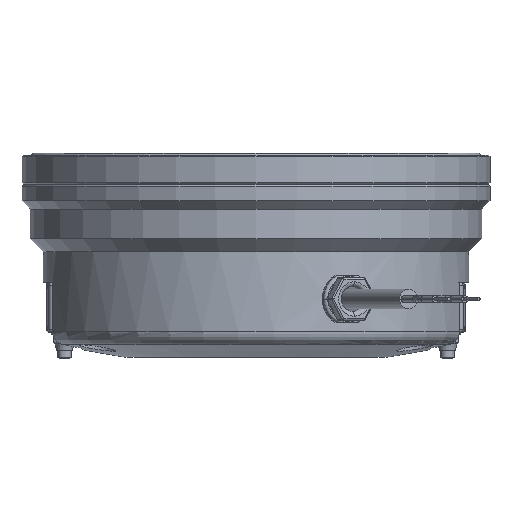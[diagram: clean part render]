
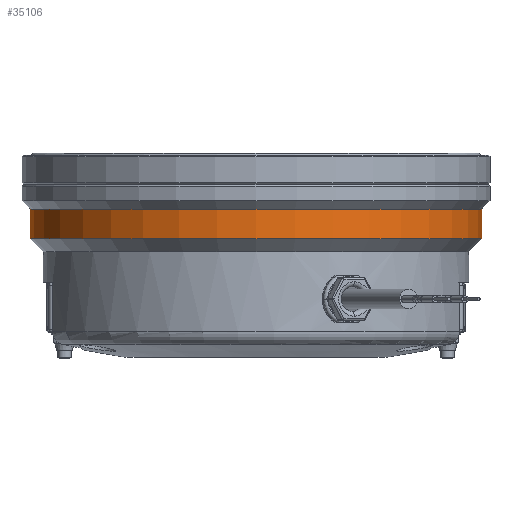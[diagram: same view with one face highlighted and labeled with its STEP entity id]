
A CAD part, front view. The second image highlights one B-rep face of the part: STEP entity #35106.
In plain terms, the highlighted cylindrical face has radius 69 mm (diameter 138 mm), a partial arc.
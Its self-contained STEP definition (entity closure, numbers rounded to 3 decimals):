
#701 = FACE_OUTER_BOUND ( 'NONE', #34939, .T. ) ;
#1768 = EDGE_CURVE ( 'NONE', #3904, #50552, #38948, .T. ) ;
#1823 = EDGE_CURVE ( 'NONE', #50552, #17945, #9224, .T. ) ;
#3002 = VECTOR ( 'NONE', #13852, 1000. ) ;
#3761 = DIRECTION ( 'NONE',  ( 1., 0., 0. ) ) ;
#3904 = VERTEX_POINT ( 'NONE', #37606 ) ;
#4333 = DIRECTION ( 'NONE',  ( 0., 0., 1. ) ) ;
#4391 = CARTESIAN_POINT ( 'NONE',  ( -69., 0., 4.927 ) ) ;
#4942 = CARTESIAN_POINT ( 'NONE',  ( 0., 0., -7.5 ) ) ;
#9224 = CIRCLE ( 'NONE', #39499, 69. ) ;
#9553 = CARTESIAN_POINT ( 'NONE',  ( 69., 0., -7.5 ) ) ;
#9854 = DIRECTION ( 'NONE',  ( 1., 0., 0. ) ) ;
#13852 = DIRECTION ( 'NONE',  ( 0., 0., 1. ) ) ;
#14873 = EDGE_CURVE ( 'NONE', #47808, #17945, #51016, .T. ) ;
#17744 = DIRECTION ( 'NONE',  ( 0., 0., 1. ) ) ;
#17792 = ORIENTED_EDGE ( 'NONE', *, *, #14873, .T. ) ;
#17945 = VERTEX_POINT ( 'NONE', #9553 ) ;
#17956 = CYLINDRICAL_SURFACE ( 'NONE', #27811, 69. ) ;
#20264 = CIRCLE ( 'NONE', #38899, 69. ) ;
#21991 = DIRECTION ( 'NONE',  ( 1., 0., 0. ) ) ;
#24303 = CARTESIAN_POINT ( 'NONE',  ( 69., 0., -16.6 ) ) ;
#25986 = DIRECTION ( 'NONE',  ( 0., 0., 1. ) ) ;
#27811 = AXIS2_PLACEMENT_3D ( 'NONE', #30999, #48021, #9854 ) ;
#28320 = CARTESIAN_POINT ( 'NONE',  ( 0., 0., -16.6 ) ) ;
#29974 = ORIENTED_EDGE ( 'NONE', *, *, #1823, .F. ) ;
#30999 = CARTESIAN_POINT ( 'NONE',  ( 0., 0., 4.927 ) ) ;
#32784 = ORIENTED_EDGE ( 'NONE', *, *, #51778, .T. ) ;
#33798 = CARTESIAN_POINT ( 'NONE',  ( 69., 0., 4.927 ) ) ;
#33910 = VECTOR ( 'NONE', #25986, 1000. ) ;
#34939 = EDGE_LOOP ( 'NONE', ( #46883, #32784, #17792, #29974 ) ) ;
#35106 = ADVANCED_FACE ( 'NONE', ( #701 ), #17956, .T. ) ;
#37606 = CARTESIAN_POINT ( 'NONE',  ( -69., 0., -16.6 ) ) ;
#38899 = AXIS2_PLACEMENT_3D ( 'NONE', #28320, #4333, #3761 ) ;
#38948 = LINE ( 'NONE', #4391, #3002 ) ;
#39499 = AXIS2_PLACEMENT_3D ( 'NONE', #4942, #17744, #21991 ) ;
#46883 = ORIENTED_EDGE ( 'NONE', *, *, #1768, .F. ) ;
#47808 = VERTEX_POINT ( 'NONE', #24303 ) ;
#48021 = DIRECTION ( 'NONE',  ( 0., 0., 1. ) ) ;
#50552 = VERTEX_POINT ( 'NONE', #52580 ) ;
#51016 = LINE ( 'NONE', #33798, #33910 ) ;
#51778 = EDGE_CURVE ( 'NONE', #3904, #47808, #20264, .T. ) ;
#52580 = CARTESIAN_POINT ( 'NONE',  ( -69., 0., -7.5 ) ) ;
